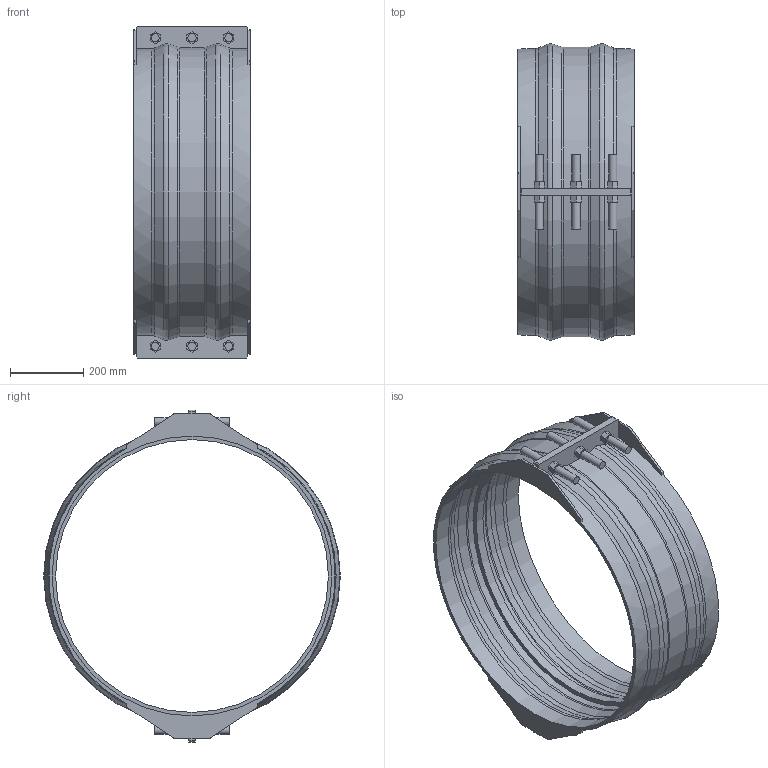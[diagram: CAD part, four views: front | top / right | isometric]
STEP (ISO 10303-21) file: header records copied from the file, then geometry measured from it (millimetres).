
FILE_DESCRIPTION(/* description */ (''),/* implementation_level */ '2;1');
FILE_NAME(/* name */ 'C:\Users\Vjadhav\Desktop\CAD for Inventor\Test for STEP\Vivek\Adsk_Inventor_Bolted Sleeve_iParts\STEP\Victaulic_VBSP_Coupling Flexible Restrained_Style 233S (BRD)\Victaulic_VBSP_Coupling Flexible Restrained_Style 233S (BRD)_200psi_30 (750).stp',/* time_stamp */ '2020-09-24T17:48:02+05:00',/* author */ ('VJadhav'),/* organization */ (''),/* preprocessor_version */ 'ST-DEVELOPER v16.1',/* originating_system */ 'Autodesk Inventor 2016',/* authorisation */ '');
FILE_SCHEMA (('AUTOMOTIVE_DESIGN { 1 0 10303 214 3 1 1 }'));
Length unit declared in the file: inch
Products named in the file (1): Victaulic_VBSP_Coupling Flexible Restrained_Style 233S (BRD)
Bounding box: 317.5 x 807.74 x 904.24 mm (x, y, z)
Volume: 9753875 mm3; surface area: 1949048 mm2
Topology: 1 solids, 1 shells, 211 faces, 529 edges, 346 vertices
Faces by surface type: plane 142, cylinder 39, torus 18, cone 12
Full cylindrical faces by diameter (mm): 22.225 x12, 742.95 x1, 762 x2, 768.35 x2
Entity records: 6401 total; most frequent: CARTESIAN_POINT 1284, ORIENTED_EDGE 1004, DIRECTION 996, EDGE_CURVE 502, LINE 352, VECTOR 352, VERTEX_POINT 346, AXIS2_PLACEMENT_3D 322
